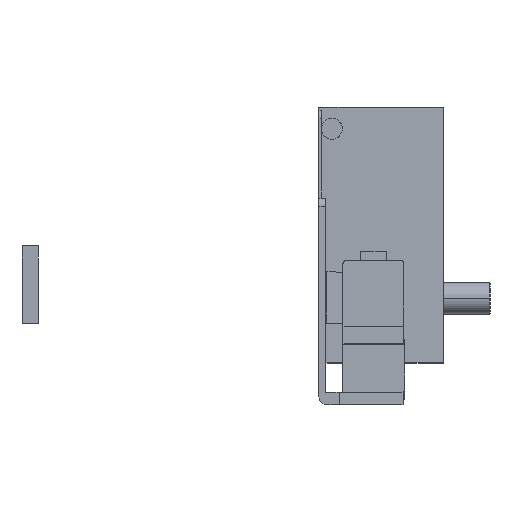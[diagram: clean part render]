
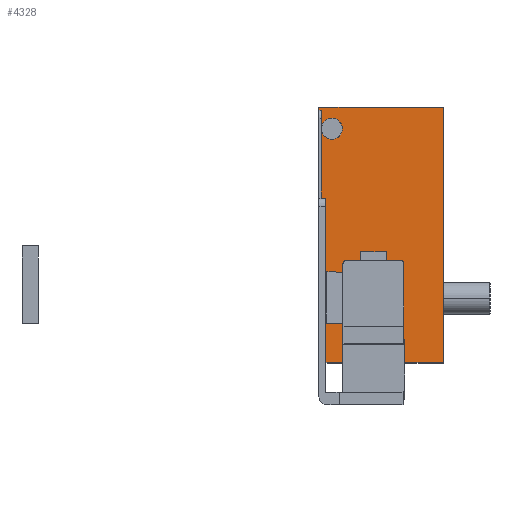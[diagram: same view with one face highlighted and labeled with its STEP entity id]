
A CAD part, front view. The second image highlights one B-rep face of the part: STEP entity #4328.
In plain terms, the highlighted planar face has unit normal (0, -1, 0.007).
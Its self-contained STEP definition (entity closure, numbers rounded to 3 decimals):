
#64 = ORIENTED_EDGE ( 'NONE', *, *, #3911, .T. ) ;
#65 = ORIENTED_EDGE ( 'NONE', *, *, #3542, .T. ) ;
#66 = ORIENTED_EDGE ( 'NONE', *, *, #3912, .T. ) ;
#163 = CIRCLE ( 'NONE', #4066, 1. ) ;
#165 = CIRCLE ( 'NONE', #4067, 1. ) ;
#167 = LINE ( 'NONE', #2531, #168 ) ;
#168 = VECTOR ( 'NONE', #2532, 1000. ) ;
#169 = LINE ( 'NONE', #2533, #170 ) ;
#170 = VECTOR ( 'NONE', #2534, 1000. ) ;
#171 = LINE ( 'NONE', #2535, #172 ) ;
#172 = VECTOR ( 'NONE', #2536, 1000. ) ;
#173 = LINE ( 'NONE', #2537, #174 ) ;
#174 = VECTOR ( 'NONE', #2538, 1000. ) ;
#175 = LINE ( 'NONE', #2539, #176 ) ;
#176 = VECTOR ( 'NONE', #2540, 1000. ) ;
#177 = LINE ( 'NONE', #2541, #178 ) ;
#178 = VECTOR ( 'NONE', #2542, 1000. ) ;
#179 = LINE ( 'NONE', #2543, #180 ) ;
#180 = VECTOR ( 'NONE', #2544, 1000. ) ;
#181 = LINE ( 'NONE', #2545, #182 ) ;
#182 = VECTOR ( 'NONE', #2546, 1000. ) ;
#382 = FACE_OUTER_BOUND ( 'NONE', #3377, .T. ) ;
#577 = DIRECTION ( 'NONE',  ( 0., 0.007, 1. ) ) ;
#578 = CARTESIAN_POINT ( 'NONE',  ( 7.25, 320.95, -16.103 ) ) ;
#597 = DIRECTION ( 'NONE',  ( 0., 0.007, 1. ) ) ;
#598 = CARTESIAN_POINT ( 'NONE',  ( 26.75, 320.95, -16.103 ) ) ;
#625 = ORIENTED_EDGE ( 'NONE', *, *, #3913, .F. ) ;
#626 = ORIENTED_EDGE ( 'NONE', *, *, #3914, .F. ) ;
#719 = CARTESIAN_POINT ( 'NONE',  ( 8.25, 320.85, -30.948 ) ) ;
#736 = CARTESIAN_POINT ( 'NONE',  ( 25.75, 320.85, -30.948 ) ) ;
#744 = CARTESIAN_POINT ( 'NONE',  ( 8., 321.003, -8.148 ) ) ;
#746 = CARTESIAN_POINT ( 'NONE',  ( 8., 320.896, -24.148 ) ) ;
#748 = CARTESIAN_POINT ( 'NONE',  ( 0., 320.896, -24.148 ) ) ;
#749 = CARTESIAN_POINT ( 'NONE',  ( 0., 320.815, -36.231 ) ) ;
#757 = CARTESIAN_POINT ( 'NONE',  ( 0., 321.347, 43.208 ) ) ;
#762 = CARTESIAN_POINT ( 'NONE',  ( 0., 321.003, -8.148 ) ) ;
#765 = CARTESIAN_POINT ( 'NONE',  ( 38.8, 321.347, 43.208 ) ) ;
#768 = CARTESIAN_POINT ( 'NONE',  ( 26.75, 320.815, -36.231 ) ) ;
#1533 = LINE ( 'NONE', #5056, #1534 ) ;
#1534 = VECTOR ( 'NONE', #5055, 1000. ) ;
#1593 = LINE ( 'NONE', #4971, #1594 ) ;
#1594 = VECTOR ( 'NONE', #4970, 1000. ) ;
#1814 = LINE ( 'NONE', #598, #1815 ) ;
#1815 = VECTOR ( 'NONE', #597, 1000. ) ;
#1823 = LINE ( 'NONE', #578, #1825 ) ;
#1825 = VECTOR ( 'NONE', #577, 1000. ) ;
#2523 = CARTESIAN_POINT ( 'NONE',  ( 25.75, 320.843, -31.948 ) ) ;
#2524 = DIRECTION ( 'NONE',  ( 0., 1., -0.007 ) ) ;
#2525 = DIRECTION ( 'NONE',  ( 0., 0.007, 1. ) ) ;
#2526 = CARTESIAN_POINT ( 'NONE',  ( 8.25, 320.843, -31.948 ) ) ;
#2527 = DIRECTION ( 'NONE',  ( 0., 1., -0.007 ) ) ;
#2528 = DIRECTION ( 'NONE',  ( 0., 0.007, 1. ) ) ;
#2531 = CARTESIAN_POINT ( 'NONE',  ( 8., 320.748, -46.147 ) ) ;
#2532 = DIRECTION ( 'NONE',  ( 0., -0.007, -1. ) ) ;
#2533 = CARTESIAN_POINT ( 'NONE',  ( 2.5, 320.896, -24.148 ) ) ;
#2534 = DIRECTION ( 'NONE',  ( -1., 0., 0. ) ) ;
#2535 = CARTESIAN_POINT ( 'NONE',  ( 0., 320.748, -46.147 ) ) ;
#2536 = DIRECTION ( 'NONE',  ( 0., 0.007, 1. ) ) ;
#2537 = CARTESIAN_POINT ( 'NONE',  ( 7.25, 320.815, -36.231 ) ) ;
#2538 = DIRECTION ( 'NONE',  ( 1., 0., 0. ) ) ;
#2539 = CARTESIAN_POINT ( 'NONE',  ( 38.8, 320.815, -36.231 ) ) ;
#2540 = DIRECTION ( 'NONE',  ( 1., 0., 0. ) ) ;
#2541 = CARTESIAN_POINT ( 'NONE',  ( 38.8, 321.347, 43.208 ) ) ;
#2542 = DIRECTION ( 'NONE',  ( -1., 0., 0. ) ) ;
#2543 = CARTESIAN_POINT ( 'NONE',  ( 0., 320.748, -46.147 ) ) ;
#2544 = DIRECTION ( 'NONE',  ( 0., 0.007, 1. ) ) ;
#2545 = CARTESIAN_POINT ( 'NONE',  ( 2.5, 321.003, -8.148 ) ) ;
#2546 = DIRECTION ( 'NONE',  ( -1., 0., 0. ) ) ;
#2913 = PLANE ( 'NONE',  #4156 ) ;
#2914 = CARTESIAN_POINT ( 'NONE',  ( 38.8, 320.748, -46.147 ) ) ;
#2915 = DIRECTION ( 'NONE',  ( 0., -1., 0.007 ) ) ;
#2916 = DIRECTION ( 'NONE',  ( 0., 0.007, 1. ) ) ;
#3224 = CARTESIAN_POINT ( 'NONE',  ( 7.25, 320.843, -31.948 ) ) ;
#3244 = CARTESIAN_POINT ( 'NONE',  ( 26.75, 320.843, -31.948 ) ) ;
#3266 = CARTESIAN_POINT ( 'NONE',  ( 38.8, 320.815, -36.231 ) ) ;
#3329 = CARTESIAN_POINT ( 'NONE',  ( 7.25, 320.815, -36.231 ) ) ;
#3377 = EDGE_LOOP ( 'NONE', ( #4415, #4414, #4413, #4412, #4411, #4410, #4409, #4408, #4407, #64, #65, #66, #625, #626 ) ) ;
#3511 = EDGE_CURVE ( 'NONE', #5268, #5251, #1533, .T. ) ;
#3542 = EDGE_CURVE ( 'NONE', #5097, #5297, #1593, .T. ) ;
#3675 = EDGE_CURVE ( 'NONE', #5300, #5040, #1814, .T. ) ;
#3681 = EDGE_CURVE ( 'NONE', #5176, #4962, #1823, .T. ) ;
#3904 = EDGE_CURVE ( 'NONE', #5268, #5040, #163, .T. ) ;
#3905 = EDGE_CURVE ( 'NONE', #4962, #5251, #165, .T. ) ;
#3907 = EDGE_CURVE ( 'NONE', #5276, #5278, #167, .T. ) ;
#3908 = EDGE_CURVE ( 'NONE', #5278, #5280, #169, .T. ) ;
#3909 = EDGE_CURVE ( 'NONE', #5281, #5280, #171, .T. ) ;
#3910 = EDGE_CURVE ( 'NONE', #5281, #5176, #173, .T. ) ;
#3911 = EDGE_CURVE ( 'NONE', #5300, #5097, #175, .T. ) ;
#3912 = EDGE_CURVE ( 'NONE', #5297, #5289, #177, .T. ) ;
#3913 = EDGE_CURVE ( 'NONE', #5294, #5289, #179, .T. ) ;
#3914 = EDGE_CURVE ( 'NONE', #5276, #5294, #181, .T. ) ;
#4066 = AXIS2_PLACEMENT_3D ( 'NONE', #2523, #2524, #2525 ) ;
#4067 = AXIS2_PLACEMENT_3D ( 'NONE', #2526, #2527, #2528 ) ;
#4156 = AXIS2_PLACEMENT_3D ( 'NONE', #2914, #2915, #2916 ) ;
#4328 = ADVANCED_FACE ( 'NONE', ( #382 ), #2913, .T. ) ;
#4407 = ORIENTED_EDGE ( 'NONE', *, *, #3675, .F. ) ;
#4408 = ORIENTED_EDGE ( 'NONE', *, *, #3904, .T. ) ;
#4409 = ORIENTED_EDGE ( 'NONE', *, *, #3511, .F. ) ;
#4410 = ORIENTED_EDGE ( 'NONE', *, *, #3905, .T. ) ;
#4411 = ORIENTED_EDGE ( 'NONE', *, *, #3681, .T. ) ;
#4412 = ORIENTED_EDGE ( 'NONE', *, *, #3910, .T. ) ;
#4413 = ORIENTED_EDGE ( 'NONE', *, *, #3909, .F. ) ;
#4414 = ORIENTED_EDGE ( 'NONE', *, *, #3908, .T. ) ;
#4415 = ORIENTED_EDGE ( 'NONE', *, *, #3907, .T. ) ;
#4962 = VERTEX_POINT ( 'NONE', #3224 ) ;
#4970 = DIRECTION ( 'NONE',  ( 0., 0.007, 1. ) ) ;
#4971 = CARTESIAN_POINT ( 'NONE',  ( 38.8, 320.748, -46.147 ) ) ;
#5040 = VERTEX_POINT ( 'NONE', #3244 ) ;
#5055 = DIRECTION ( 'NONE',  ( -1., 0., 0. ) ) ;
#5056 = CARTESIAN_POINT ( 'NONE',  ( 26.75, 320.85, -30.948 ) ) ;
#5097 = VERTEX_POINT ( 'NONE', #3266 ) ;
#5176 = VERTEX_POINT ( 'NONE', #3329 ) ;
#5251 = VERTEX_POINT ( 'NONE', #719 ) ;
#5268 = VERTEX_POINT ( 'NONE', #736 ) ;
#5276 = VERTEX_POINT ( 'NONE', #744 ) ;
#5278 = VERTEX_POINT ( 'NONE', #746 ) ;
#5280 = VERTEX_POINT ( 'NONE', #748 ) ;
#5281 = VERTEX_POINT ( 'NONE', #749 ) ;
#5289 = VERTEX_POINT ( 'NONE', #757 ) ;
#5294 = VERTEX_POINT ( 'NONE', #762 ) ;
#5297 = VERTEX_POINT ( 'NONE', #765 ) ;
#5300 = VERTEX_POINT ( 'NONE', #768 ) ;
